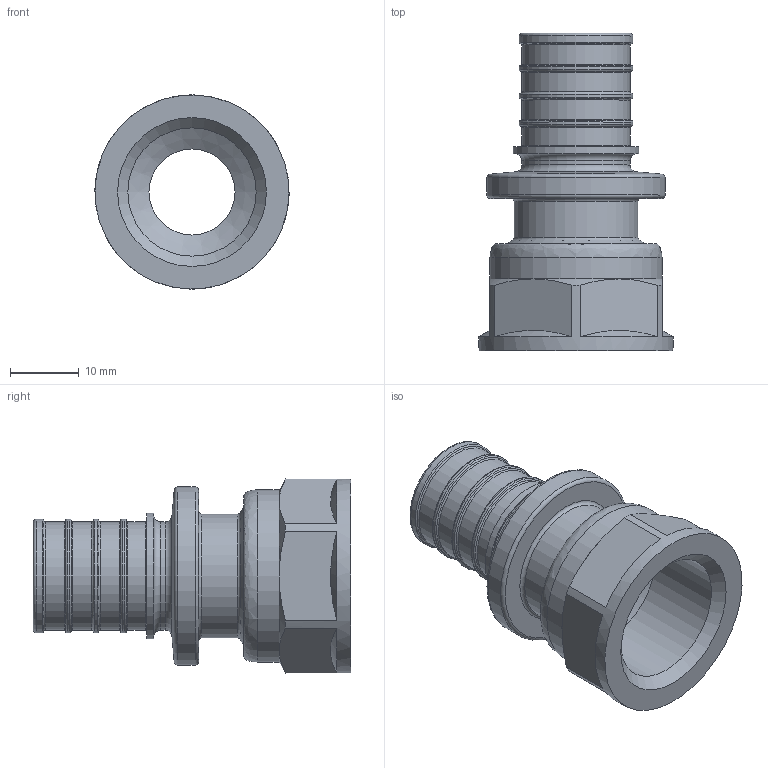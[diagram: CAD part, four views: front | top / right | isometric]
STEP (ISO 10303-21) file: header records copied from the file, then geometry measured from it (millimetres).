
FILE_DESCRIPTION(('STEP AP203'), '1');
FILE_NAME('ﾂﾐ.753124.009 - VTm.402.G.002004 ﾔ頸. 浯葢. G 1-2', '2024-01-23T13:18:00', ('IT'), ('VESTA'), 'C3D Converter', 'C3D Toolkit', '');
FILE_SCHEMA(('CONFIG_CONTROL_DESIGN'));
Length unit declared in the file: millimetre
Products named in the file (1): ВР.753124.009
Bounding box: 28.2 x 46.1 x 28.2 mm (x, y, z)
Volume: 8179.6 mm3; surface area: 6467.2 mm2
Topology: 1 solids, 1 shells, 68 faces, 143 edges, 81 vertices
Faces by surface type: torus 22, cone 17, cylinder 16, plane 12, bspline 1
Full cylindrical faces by diameter (mm): 12.5 x1, 15.7 x5, 16.5 x4, 17.9 x1, 18.2 x1, 18.632 x1, 25 x1, 25.9 x1, 28.2 x1
Entity records: 2277 total; most frequent: CARTESIAN_POINT 958, DIRECTION 286, ORIENTED_EDGE 198, AXIS2_PLACEMENT_3D 137, EDGE_LOOP 118, EDGE_CURVE 99, FACE_OUTER_BOUND 84, VERTEX_POINT 81
